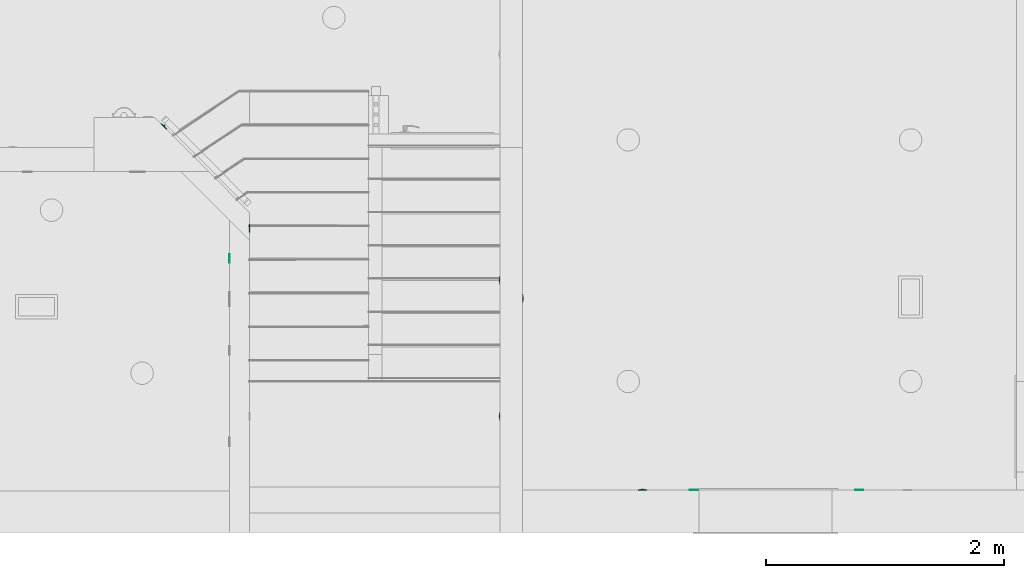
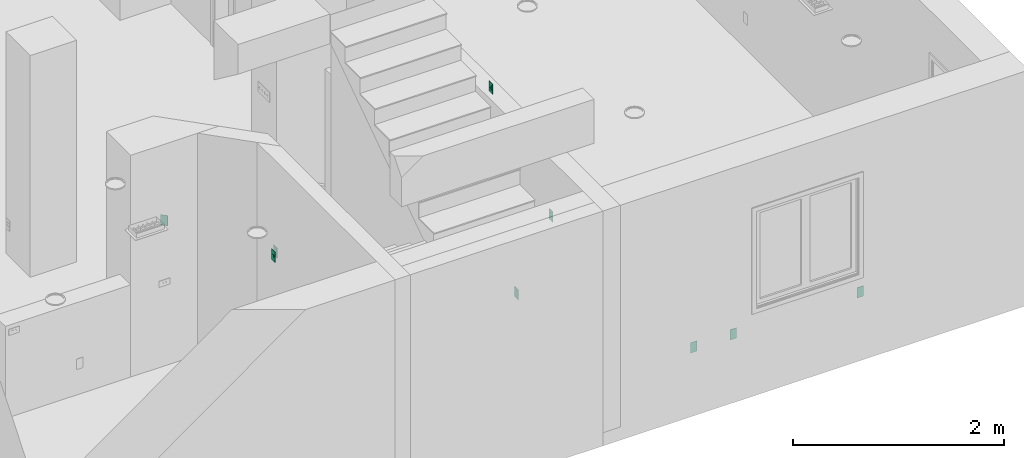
# One storey, part 5 of 48: 9 flow controllers.
"""IFC2X3 building model written with IfcOpenShell, lengths in inches."""

from ifc_helpers import new_model, entity, si_unit, converted_unit, derived_unit, money_unit, direction, frame, origin_with_axes, place, context, subcontext, project, spatial, faceted_brep, source, transform, mapped, type_object, element, save


model = new_model("IFC2X3")

# Units and contexts
model_context = context("Model", 3, precision=0.00039370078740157, world=origin_with_axes(), true_north=direction((0.0, 1.0)))
plan_context = context("Plan", 3, precision=0.00039370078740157, world=origin_with_axes(), true_north=direction((0.0, 1.0)))
body_context = subcontext(model_context, "Body", "Model", "MODEL_VIEW")
ifc_project = project(units=[converted_unit("LENGTHUNIT", "INCH", entity("IfcPositiveLengthMeasure", 0.0254), si_unit("LENGTHUNIT", "METRE"), dimensions=[1, 0, 0, 0, 0, 0, 0]), converted_unit("AREAUNIT", "SQUARE_FOOT", entity("IfcPositiveLengthMeasure", 0.09290304), si_unit("AREAUNIT", "SQUARE_METRE"), dimensions=[2, 0, 0, 0, 0, 0, 0]), si_unit("PLANEANGLEUNIT", "RADIAN"), si_unit("SOLIDANGLEUNIT", "STERADIAN"), money_unit("USD"), converted_unit("TIMEUNIT", "Year", entity("IfcTimeMeasure", 31557600.0), si_unit("TIMEUNIT", "SECOND"), dimensions=[0, 0, 1, 0, 0, 0, 0]), si_unit("MASSUNIT", "GRAM", prefix="KILO"), si_unit("THERMODYNAMICTEMPERATUREUNIT", "DEGREE_CELSIUS"), si_unit("LUMINOUSINTENSITYUNIT", "LUMEN"), si_unit("ENERGYUNIT", "JOULE", prefix="MEGA"), derived_unit("SPECIFICHEATCAPACITYUNIT", [(si_unit("ENERGYUNIT", "JOULE"), 1), (si_unit("MASSUNIT", "GRAM", prefix="KILO"), -1), (si_unit("THERMODYNAMICTEMPERATUREUNIT", "KELVIN"), -1)])], contexts=[model_context, plan_context])

# Site, building, storey
site_placement = place(None, origin_with_axes())
site = spatial("IfcSite", under=ifc_project, at=site_placement, Name="Site", CompositionType="ELEMENT")
building_placement = place(site_placement, origin_with_axes())
building = spatial("IfcBuilding", under=site, at=building_placement, Name="Building", CompositionType="ELEMENT")
storey_placement = place(building_placement, origin_with_axes())
storey = spatial("IfcBuildingStorey", under=building, at=storey_placement, Name="First Floor", CompositionType="ELEMENT", Elevation=0.0)

# Flow controllers
switching_device_type_1 = type_object("IfcSwitchingDeviceType", Name="Outlet 1 US", PredefinedType="NOTDEFINED")
shared_shape_1 = source(origin_with_axes(), body_context, "Body", "Brep", [
    faceted_brep([(0.39370078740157, -0.03444881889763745, -1.18110236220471), (0.5436477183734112, -0.03444881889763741, -0.7086614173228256), (0.5436477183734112, -0.2165354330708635, -0.7086614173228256), (0.39370078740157, -0.2165354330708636, -1.18110236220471), (-0.3937007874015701, -0.03444881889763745, -1.181102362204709), (-0.543647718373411, -0.03444881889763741, -0.7086614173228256), (-0.39370078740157, -0.03444881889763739, -0.2362204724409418), (0.3937007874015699, -0.03444881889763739, -0.2362204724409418), (-0.196850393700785, -0.03444881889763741, -0.7086614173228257), (-0.196850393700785, -0.0344488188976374, -0.4724409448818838), (-0.275590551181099, -0.0344488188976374, -0.4724409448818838), (-0.275590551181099, -0.03444881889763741, -0.7086614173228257), (0.196850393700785, -0.03444881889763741, -0.7086614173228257), (0.275590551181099, -0.03444881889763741, -0.7086614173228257), (0.275590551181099, -0.0344488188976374, -0.4724409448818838), (0.196850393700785, -0.0344488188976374, -0.4724409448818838), (-0.078740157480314, -0.03444881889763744, -1.102362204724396), (0.078740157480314, -0.03444881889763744, -1.102362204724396), (0.078740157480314, -0.03444881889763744, -1.023622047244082), (0.06819097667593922, -0.03444881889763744, -0.9842519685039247), (0.03937007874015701, -0.03444881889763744, -0.9554310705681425), (0.0, -0.03444881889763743, -0.9448818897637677), (-0.03937007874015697, -0.03444881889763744, -0.9554310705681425), (-0.06819097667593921, -0.03444881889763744, -0.9842519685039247), (-0.078740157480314, -0.03444881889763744, -1.023622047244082), (0.3937007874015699, -0.2165354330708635, -0.2362204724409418), (-0.39370078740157, -0.2165354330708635, -0.2362204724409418), (-0.543647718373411, -0.2165354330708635, -0.7086614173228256), (-0.3937007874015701, -0.2165354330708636, -1.181102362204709), (-0.196850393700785, -0.2165354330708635, -0.7086614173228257), (-0.275590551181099, -0.2165354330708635, -0.7086614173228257), (-0.275590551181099, -0.2165354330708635, -0.4724409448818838), (-0.196850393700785, -0.2165354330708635, -0.4724409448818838), (0.196850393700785, -0.2165354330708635, -0.7086614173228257), (0.196850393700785, -0.2165354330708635, -0.4724409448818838), (0.275590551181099, -0.2165354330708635, -0.4724409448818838), (0.275590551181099, -0.2165354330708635, -0.7086614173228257), (-0.078740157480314, -0.2165354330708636, -1.102362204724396), (-0.078740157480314, -0.2165354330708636, -1.023622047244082), (-0.06819097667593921, -0.2165354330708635, -0.9842519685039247), (-0.03937007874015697, -0.2165354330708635, -0.9554310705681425), (0.0, -0.2165354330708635, -0.9448818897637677), (0.03937007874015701, -0.2165354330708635, -0.9554310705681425), (0.06819097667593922, -0.2165354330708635, -0.9842519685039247), (0.078740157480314, -0.2165354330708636, -1.023622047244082), (0.078740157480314, -0.2165354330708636, -1.102362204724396)], [[[0, 1, 2, 3]], [[0, 4, 5, 6, 7, 1], [8, 9, 10, 11], [12, 13, 14, 15], [16, 17, 18, 19, 20, 21, 22, 23, 24]], [[1, 7, 25, 2]], [[3, 2, 25, 26, 27, 28], [29, 30, 31, 32], [33, 34, 35, 36], [37, 38, 39, 40, 41, 42, 43, 44, 45]], [[4, 0, 3, 28]], [[5, 4, 28, 27]], [[6, 5, 27, 26]], [[7, 6, 26, 25]], [[9, 8, 29, 32]], [[10, 9, 32, 31]], [[11, 10, 31, 30]], [[8, 11, 30, 29]], [[13, 12, 33, 36]], [[14, 13, 36, 35]], [[15, 14, 35, 34]], [[12, 15, 34, 33]], [[17, 16, 37, 45]], [[18, 17, 45, 44]], [[19, 18, 44, 43]], [[20, 19, 43, 42]], [[21, 20, 42, 41]], [[22, 21, 41, 40]], [[23, 22, 40, 39]], [[24, 23, 39, 38]], [[16, 24, 38, 37]]]),
    faceted_brep([(0.39370078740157, -0.03444881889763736, 0.2362204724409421), (0.5436477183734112, -0.03444881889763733, 0.7086614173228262), (0.5436477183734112, -0.2165354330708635, 0.7086614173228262), (0.39370078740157, -0.2165354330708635, 0.2362204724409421), (-0.3937007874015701, -0.03444881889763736, 0.2362204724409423), (-0.543647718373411, -0.03444881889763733, 0.7086614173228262), (-0.39370078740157, -0.0344488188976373, 1.18110236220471), (0.3937007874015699, -0.0344488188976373, 1.18110236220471), (-0.196850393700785, -0.03444881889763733, 0.7086614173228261), (-0.196850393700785, -0.03444881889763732, 0.944881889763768), (-0.275590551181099, -0.03444881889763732, 0.944881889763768), (-0.275590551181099, -0.03444881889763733, 0.7086614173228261), (0.196850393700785, -0.03444881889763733, 0.7086614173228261), (0.275590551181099, -0.03444881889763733, 0.7086614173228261), (0.275590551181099, -0.03444881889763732, 0.944881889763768), (0.196850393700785, -0.03444881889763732, 0.944881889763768), (-0.078740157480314, -0.03444881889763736, 0.3149606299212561), (0.078740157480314, -0.03444881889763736, 0.3149606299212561), (0.078740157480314, -0.03444881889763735, 0.3937007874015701), (0.06819097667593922, -0.03444881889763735, 0.4330708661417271), (0.03937007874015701, -0.03444881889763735, 0.4618917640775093), (0.0, -0.03444881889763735, 0.472440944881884), (-0.03937007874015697, -0.03444881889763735, 0.4618917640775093), (-0.06819097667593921, -0.03444881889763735, 0.4330708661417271), (-0.078740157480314, -0.03444881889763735, 0.3937007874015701), (0.3937007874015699, -0.2165354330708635, 1.18110236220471), (-0.39370078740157, -0.2165354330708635, 1.18110236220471), (-0.543647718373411, -0.2165354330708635, 0.7086614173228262), (-0.3937007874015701, -0.2165354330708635, 0.2362204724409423), (-0.196850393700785, -0.2165354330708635, 0.7086614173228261), (-0.275590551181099, -0.2165354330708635, 0.7086614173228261), (-0.275590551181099, -0.2165354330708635, 0.944881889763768), (-0.196850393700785, -0.2165354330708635, 0.944881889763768), (0.196850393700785, -0.2165354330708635, 0.7086614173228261), (0.196850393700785, -0.2165354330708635, 0.944881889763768), (0.275590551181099, -0.2165354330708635, 0.944881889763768), (0.275590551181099, -0.2165354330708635, 0.7086614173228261), (-0.078740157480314, -0.2165354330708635, 0.3149606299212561), (-0.078740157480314, -0.2165354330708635, 0.3937007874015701), (-0.06819097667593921, -0.2165354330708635, 0.4330708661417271), (-0.03937007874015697, -0.2165354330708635, 0.4618917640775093), (0.0, -0.2165354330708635, 0.472440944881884), (0.03937007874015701, -0.2165354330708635, 0.4618917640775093), (0.06819097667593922, -0.2165354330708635, 0.4330708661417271), (0.078740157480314, -0.2165354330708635, 0.3937007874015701), (0.078740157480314, -0.2165354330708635, 0.3149606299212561)], [[[0, 1, 2, 3]], [[0, 4, 5, 6, 7, 1], [8, 9, 10, 11], [12, 13, 14, 15], [16, 17, 18, 19, 20, 21, 22, 23, 24]], [[1, 7, 25, 2]], [[3, 2, 25, 26, 27, 28], [29, 30, 31, 32], [33, 34, 35, 36], [37, 38, 39, 40, 41, 42, 43, 44, 45]], [[4, 0, 3, 28]], [[5, 4, 28, 27]], [[6, 5, 27, 26]], [[7, 6, 26, 25]], [[9, 8, 29, 32]], [[10, 9, 32, 31]], [[11, 10, 31, 30]], [[8, 11, 30, 29]], [[13, 12, 33, 36]], [[14, 13, 36, 35]], [[15, 14, 35, 34]], [[12, 15, 34, 33]], [[17, 16, 37, 45]], [[18, 17, 45, 44]], [[19, 18, 44, 43]], [[20, 19, 43, 42]], [[21, 20, 42, 41]], [[22, 21, 41, 40]], [[23, 22, 40, 39]], [[24, 23, 39, 38]], [[16, 24, 38, 37]]]),
    faceted_brep([(-1.343503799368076, -0.1377952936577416, -2.327755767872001), (1.343503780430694, -0.1377952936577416, -2.327755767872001), (1.343503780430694, -0.1377952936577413, 2.327755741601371), (-1.343503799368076, -0.1377952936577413, 2.327755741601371), (0.39370078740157, -0.1377952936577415, -1.18110236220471), (-0.3937007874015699, -0.1377952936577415, -1.181102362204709), (-0.5436477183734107, -0.1377952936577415, -0.7086614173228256), (-0.39370078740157, -0.1377952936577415, -0.2362204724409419), (0.3937007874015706, -0.1377952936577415, -0.2362204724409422), (0.5436477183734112, -0.1377952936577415, -0.7086614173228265), (-0.39370078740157, -0.1377952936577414, 1.18110236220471), (0.3937007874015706, -0.1377952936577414, 1.18110236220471), (0.5436477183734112, -0.1377952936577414, 0.7086614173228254), (0.39370078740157, -0.1377952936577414, 0.236220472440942), (-0.3937007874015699, -0.1377952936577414, 0.2362204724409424), (-0.5436477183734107, -0.1377952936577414, 0.7086614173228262), (-1.352419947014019, -0.1366214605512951, -2.336671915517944), (1.352419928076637, -0.1366214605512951, -2.336671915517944), (1.352419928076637, -0.1366214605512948, 2.336671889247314), (-1.352419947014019, -0.1366214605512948, 2.336671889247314), (0.39370078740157, -0.03444881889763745, -1.18110236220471), (-0.3937007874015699, -0.03444881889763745, -1.181102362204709), (-0.5436477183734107, -0.03444881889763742, -0.7086614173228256), (-0.39370078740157, -0.03444881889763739, -0.2362204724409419), (0.3937007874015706, -0.03444881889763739, -0.2362204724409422), (0.5436477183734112, -0.03444881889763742, -0.7086614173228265), (-0.39370078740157, -0.0344488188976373, 1.18110236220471), (0.3937007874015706, -0.0344488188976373, 1.18110236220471), (0.5436477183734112, -0.03444881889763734, 0.7086614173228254), (0.39370078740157, -0.03444881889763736, 0.236220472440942), (-0.3937007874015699, -0.03444881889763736, 0.2362204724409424), (-0.5436477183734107, -0.03444881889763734, 0.7086614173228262), (-1.36786294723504, -0.1277054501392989, -2.352114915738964), (1.367862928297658, -0.1277054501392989, -2.352114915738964), (1.367862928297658, -0.1277054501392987, 2.352114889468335), (-1.36786294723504, -0.1277054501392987, 2.352114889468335), (-1.376778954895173, -0.1122624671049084, -2.361030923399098), (1.376778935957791, -0.1122624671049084, -2.361030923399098), (1.376778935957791, -0.1122624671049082, 2.361030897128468), (-1.376778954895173, -0.1122624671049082, 2.361030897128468), (-1.377952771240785, -0.1033464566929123, -2.362204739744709), (1.377952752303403, -0.1033464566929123, -2.362204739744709), (1.377952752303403, -0.103346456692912, 2.36220471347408), (-1.377952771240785, -0.103346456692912, 2.36220471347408), (-1.377952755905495, 0.0, -2.36220472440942), (1.377952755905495, 0.0, -2.36220472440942), (1.377952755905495, 0.0, 2.36220472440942), (-1.377952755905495, 0.0, 2.36220472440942)], [[[0, 1, 2, 3], [4, 5, 6, 7, 8, 9], [10, 11, 12, 13, 14, 15]], [[1, 0, 16, 17]], [[2, 1, 17, 18]], [[3, 2, 18, 19]], [[0, 3, 19, 16]], [[4, 20, 21, 5]], [[5, 21, 22, 6]], [[6, 22, 23, 7]], [[7, 23, 24, 8]], [[8, 24, 25, 9]], [[9, 25, 20, 4]], [[11, 10, 26, 27]], [[12, 11, 27, 28]], [[13, 12, 28, 29]], [[14, 13, 29, 30]], [[15, 14, 30, 31]], [[10, 15, 31, 26]], [[17, 16, 32, 33]], [[18, 17, 33, 34]], [[19, 18, 34, 35]], [[16, 19, 35, 32]], [[22, 21, 20, 25, 24, 23]], [[28, 27, 26, 31, 30, 29]], [[33, 32, 36, 37]], [[34, 33, 37, 38]], [[35, 34, 38, 39]], [[32, 35, 39, 36]], [[37, 36, 40, 41]], [[38, 37, 41, 42]], [[39, 38, 42, 43]], [[36, 39, 43, 40]], [[41, 40, 44, 45]], [[42, 41, 45, 46]], [[43, 42, 46, 47]], [[40, 43, 47, 44]], [[46, 45, 44, 47]]]),
])
for number, where, z_axis, x_axis, name in (
    (1, (251.9999999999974, 77.49330357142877, 13.99999999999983), (0.0, 0.0, 1.0), (0.0, 1.0, 0.0), "FU - 029"),
    (2, (244.4999999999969, 38.50000000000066, 75.74999999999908), (0.0, 0.0, 1.0), (0.0, -1.0, 0.0), "FU - 029"),
    (3, (161.4999999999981, 100.7518313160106, 50.49999999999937), (0.0, 0.0, 1.0), (0.0, 1.0, 0.0), "FU - 029"),
    (4, (291.7499999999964, 14.04421768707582, 13.99999999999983), (0.0, 0.0, 1.0), (-1.0, 0.0, 0.0), "FU - 029"),
    (5, (244.4999999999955, 83.50000000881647, 106.7499999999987), (0.0, 0.0, 1.0), (0.0, -1.0, 0.0), "FU - 029"),
):
    element("IfcFlowController", number, at=place(storey_placement, frame(where, z_axis=z_axis, x_axis=x_axis)), inside=storey, type_object=switching_device_type_1, Name=name, context=body_context, shape_type="MappedRepresentation", body=[
        mapped(shared_shape_1, transform((0.0, 0.0, 0.0))),
    ])
switching_device_type_2 = type_object("IfcSwitchingDeviceType", Name="Switch US", PredefinedType="NOTDEFINED")
shared_shape_2 = source(origin_with_axes(), body_context, "Body", "Brep", [
    faceted_brep([(0.196850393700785, 0.0, -0.5905511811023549), (-0.196850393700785, 0.0, -0.5905511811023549), (-0.196850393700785, 0.0, 0.5905511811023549), (0.196850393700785, 0.0, 0.5905511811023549), (0.196850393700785, -0.1033464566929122, -0.5905511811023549), (-0.196850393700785, -0.1033464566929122, -0.5905511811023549), (-0.196850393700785, -0.1033464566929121, 0.157480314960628), (-0.196850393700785, -0.4970472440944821, 0.1574803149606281), (-0.196850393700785, -0.4970472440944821, 0.472440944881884), (-0.196850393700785, -0.1033464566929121, 0.472440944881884), (-0.196850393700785, -0.1033464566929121, 0.5905511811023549), (0.196850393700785, -0.103346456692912, 0.5905511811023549), (0.196850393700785, -0.1033464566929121, 0.472440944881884), (0.196850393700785, -0.4970472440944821, 0.472440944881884), (0.196850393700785, -0.4970472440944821, 0.1574803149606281), (0.196850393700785, -0.1033464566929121, 0.157480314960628)], [[[0, 1, 2, 3]], [[4, 5, 1, 0]], [[1, 5, 6, 7, 8, 9, 10, 2]], [[3, 2, 10, 11]], [[0, 3, 11, 12, 13, 14, 15, 4]], [[15, 6, 5, 4]], [[14, 7, 6, 15]], [[13, 8, 7, 14]], [[12, 9, 8, 13]], [[11, 10, 9, 12]]]),
    faceted_brep([(0.275590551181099, 0.0, -0.669291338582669), (0.275590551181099, -0.1771653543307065, -0.669291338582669), (-0.275590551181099, -0.1771653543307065, -0.669291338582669), (-0.275590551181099, 0.0, -0.669291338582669), (0.275590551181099, 0.0, 0.669291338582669), (0.275590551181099, -0.1771653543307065, 0.669291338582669), (-0.275590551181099, -0.1771653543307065, 0.669291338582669), (0.196850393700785, -0.1771653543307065, -0.5905511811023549), (-0.196850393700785, -0.1771653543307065, -0.5905511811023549), (-0.196850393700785, -0.1771653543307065, 0.5905511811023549), (0.196850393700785, -0.1771653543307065, 0.5905511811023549), (-0.275590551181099, 0.0, 0.669291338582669), (0.196850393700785, 0.0, -0.5905511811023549), (0.196850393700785, 0.0, 0.5905511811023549), (-0.196850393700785, 0.0, 0.5905511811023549), (-0.196850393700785, 0.0, -0.5905511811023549)], [[[0, 1, 2, 3]], [[4, 5, 1, 0]], [[1, 5, 6, 2], [7, 8, 9, 10]], [[3, 2, 6, 11]], [[0, 3, 11, 4], [12, 13, 14, 15]], [[11, 6, 5, 4]], [[15, 8, 7, 12]], [[14, 9, 8, 15]], [[13, 10, 9, 14]], [[12, 7, 10, 13]]]),
    faceted_brep([(1.343503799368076, -0.1377952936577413, 2.32775574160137), (-1.343503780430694, -0.1377952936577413, 2.32775574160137), (-1.343503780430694, -0.1377952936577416, -2.327755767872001), (1.343503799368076, -0.1377952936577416, -2.327755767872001), (0.275590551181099, -0.1377952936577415, -0.669291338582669), (-0.275590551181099, -0.1377952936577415, -0.669291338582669), (-0.275590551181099, -0.1377952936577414, 0.669291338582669), (0.275590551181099, -0.1377952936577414, 0.669291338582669), (1.352419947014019, -0.1366214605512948, 2.336671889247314), (-1.352419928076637, -0.1366214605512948, 2.336671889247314), (-1.352419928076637, -0.1366214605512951, -2.336671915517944), (1.352419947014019, -0.1366214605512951, -2.336671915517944), (-0.275590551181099, 0.0, -0.669291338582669), (0.275590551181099, 0.0, -0.669291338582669), (-0.275590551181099, 0.0, 0.669291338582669), (0.275590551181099, 0.0, 0.669291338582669), (1.36786294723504, -0.1277054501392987, 2.352114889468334), (-1.367862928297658, -0.1277054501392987, 2.352114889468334), (-1.367862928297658, -0.1277054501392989, -2.352114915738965), (1.36786294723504, -0.1277054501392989, -2.352114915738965), (1.377952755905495, 0.0, 2.36220472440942), (1.377952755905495, 0.0, -2.36220472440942), (-1.377952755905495, 0.0, -2.36220472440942), (-1.377952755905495, 0.0, 2.36220472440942), (1.376778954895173, -0.1122624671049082, 2.361030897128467), (-1.376778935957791, -0.1122624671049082, 2.361030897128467), (-1.376778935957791, -0.1122624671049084, -2.361030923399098), (1.376778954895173, -0.1122624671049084, -2.361030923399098), (1.377952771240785, -0.103346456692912, 2.362204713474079), (1.377952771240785, -0.1033464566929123, -2.36220473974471), (-1.377952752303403, -0.1033464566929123, -2.36220473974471), (-1.377952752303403, -0.103346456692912, 2.362204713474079)], [[[0, 1, 2, 3], [4, 5, 6, 7]], [[8, 9, 1, 0]], [[9, 10, 2, 1]], [[10, 11, 3, 2]], [[11, 8, 0, 3]], [[12, 5, 4, 13]], [[14, 6, 5, 12]], [[15, 7, 6, 14]], [[13, 4, 7, 15]], [[16, 17, 9, 8]], [[17, 18, 10, 9]], [[18, 19, 11, 10]], [[19, 16, 8, 11]], [[20, 21, 22, 23], [13, 15, 14, 12]], [[24, 25, 17, 16]], [[25, 26, 18, 17]], [[26, 27, 19, 18]], [[27, 24, 16, 19]], [[21, 20, 28, 29]], [[22, 21, 29, 30]], [[23, 22, 30, 31]], [[20, 23, 31, 28]], [[28, 31, 25, 24]], [[31, 30, 26, 25]], [[30, 29, 27, 26]], [[29, 28, 24, 27]]]),
])
flow_controller_placement = place(storey_placement, frame((133.088273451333, 134.5231240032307, 54.24999999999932), z_axis=(0.0, 0.0, 1.0), x_axis=(-0.7071067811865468, 0.7071067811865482, 0.0)))
element("IfcFlowController", 6, at=flow_controller_placement, inside=storey, type_object=switching_device_type_2, Name="OBJ-09", context=body_context, shape_type="MappedRepresentation", body=[
    mapped(shared_shape_2, transform((0.0, 0.0, 0.0))),
])
shared_shape_3 = source(origin_with_axes(), body_context, "Body", "Brep", [
    faceted_brep([(0.39370078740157, -0.0344488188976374, -0.472440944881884), (0.3937007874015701, -0.03444881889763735, 0.472440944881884), (0.3937007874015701, -0.2165354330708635, 0.472440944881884), (0.39370078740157, -0.2165354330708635, -0.472440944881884), (-0.3937007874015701, -0.0344488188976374, -0.4724409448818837), (-0.39370078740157, -0.03444881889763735, 0.472440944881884), (-0.39370078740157, -0.2165354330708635, 0.472440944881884), (-0.3937007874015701, -0.2165354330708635, -0.4724409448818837)], [[[0, 1, 2, 3]], [[0, 4, 5, 1]], [[1, 5, 6, 2]], [[3, 2, 6, 7]], [[4, 0, 3, 7]], [[5, 4, 7, 6]]]),
    faceted_brep([(1.377952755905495, -0.1377952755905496, -2.36220472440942), (1.377952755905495, -0.1377952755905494, 2.36220472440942), (-1.377952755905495, -0.1377952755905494, 2.36220472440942), (-1.377952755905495, -0.1377952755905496, -2.36220472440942), (-0.3937007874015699, -0.1377952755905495, -0.4724409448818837), (-0.39370078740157, -0.1377952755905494, 0.4724409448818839), (0.3937007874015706, -0.1377952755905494, 0.4724409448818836), (0.39370078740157, -0.1377952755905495, -0.472440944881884), (1.377952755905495, 0.0, 2.36220472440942), (1.377952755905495, 0.0, -2.36220472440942), (-1.377952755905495, 0.0, 2.36220472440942), (-1.377952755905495, 0.0, -2.36220472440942), (-0.3937007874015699, -0.0344488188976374, -0.4724409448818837), (-0.39370078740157, -0.03444881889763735, 0.4724409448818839), (0.3937007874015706, -0.03444881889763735, 0.4724409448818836), (0.39370078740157, -0.0344488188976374, -0.472440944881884)], [[[0, 1, 2, 3], [4, 5, 6, 7]], [[8, 1, 0, 9]], [[10, 2, 1, 8]], [[11, 3, 2, 10]], [[9, 0, 3, 11]], [[5, 4, 12, 13]], [[6, 5, 13, 14]], [[7, 6, 14, 15]], [[4, 7, 15, 12]], [[10, 8, 9, 11]], [[14, 13, 12, 15]]]),
])
for number, where, z_axis, x_axis, name in (
    (7, (154.9999999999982, 90.74999999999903, 56.9999999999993), (0.0, 0.0, 1.0), (0.0, -1.0, 0.0), "OBJ-05"),
    (8, (363.4999999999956, 14.00000000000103, 13.99999999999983), (0.0, 0.0, 1.0), (-1.0, 0.0, 0.0), "OBJ-05"),
    (9, (308.7499999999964, 14.00000000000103, 13.99999999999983), (0.0, 0.0, 1.0), (-1.0, 0.0, 0.0), "OBJ-05"),
):
    element("IfcFlowController", number, at=place(storey_placement, frame(where, z_axis=z_axis, x_axis=x_axis)), inside=storey, type_object=switching_device_type_1, Name=name, context=body_context, shape_type="MappedRepresentation", body=[
        mapped(shared_shape_3, transform((0.0, 0.0, 0.0))),
    ])

save(model, "model.ifc")
